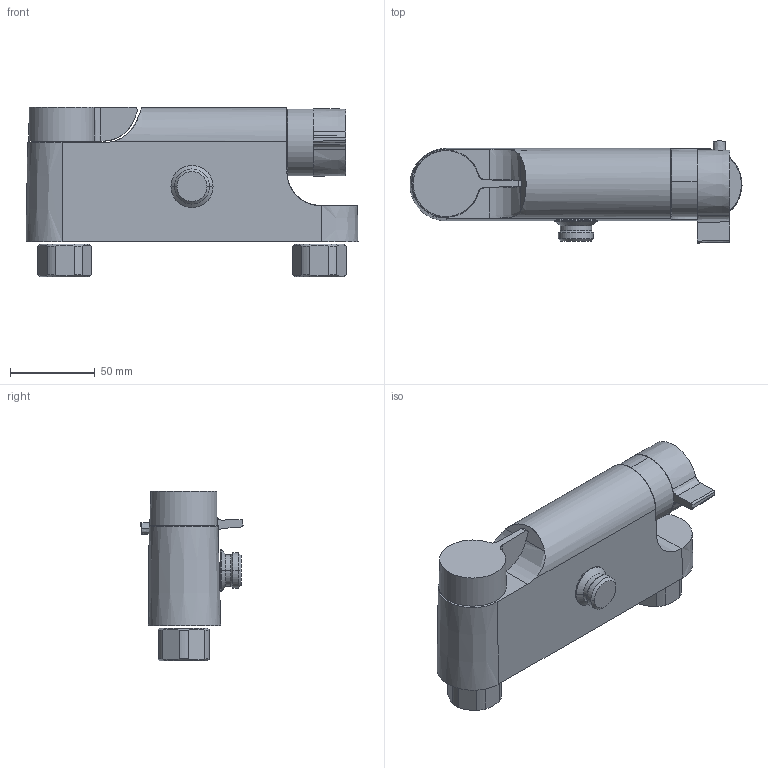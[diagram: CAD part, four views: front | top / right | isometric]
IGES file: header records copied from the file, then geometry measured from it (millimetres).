
Start section:  PTC IGES file: 27450_web.igs
Global section: file name: 27450_web.igs; native system: Creo Parametric by PTC Inc.; preprocessor: 2018190; author: jaje1; organization: Unknown; date: 20181220.125803; units: millimetre
Bounding box: 195.63 x 60.15 x 99.92 mm (x, y, z)
Surface area: 56679.5 mm2 (no closed solid volume)
Topology: 0 solids, 0 shells, 91 faces, 468 edges, 466 vertices
Faces by surface type: revolution 51, bspline 40
